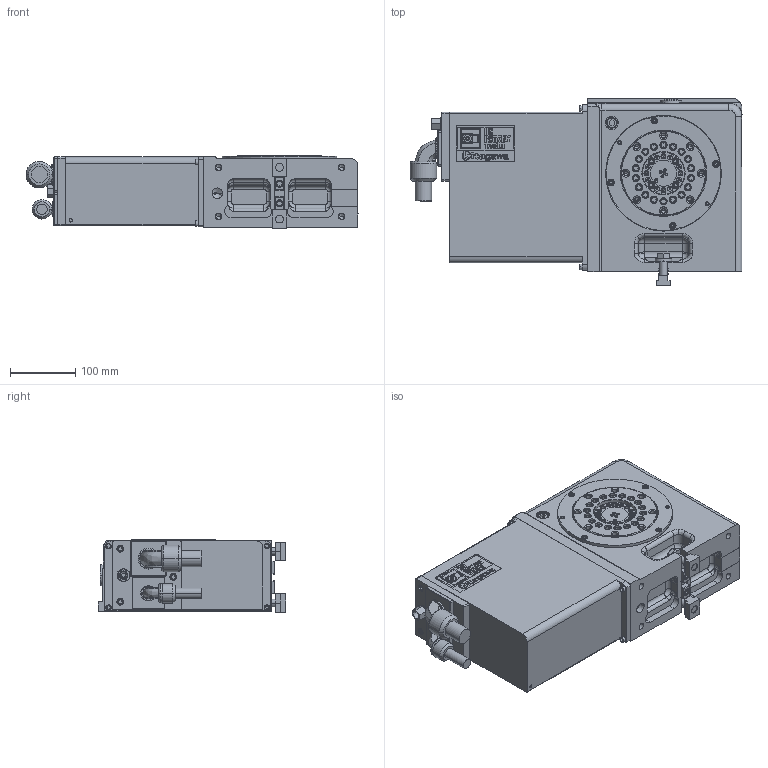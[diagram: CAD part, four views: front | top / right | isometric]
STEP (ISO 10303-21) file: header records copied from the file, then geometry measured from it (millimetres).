
FILE_DESCRIPTION (( 'STEP AP214' ), '1' );
FILE_NAME ('CKR200LF.STEP', '2019-12-02T04:00:24', ( '' ), ( '' ), 'SwSTEP 2.0', 'SolidWorks 2017', '' );
FILE_SCHEMA (( 'AUTOMOTIVE_DESIGN' ));
Length unit declared in the file: millimetre
Products named in the file (21): 僔儕儞僟RJ(61E2751873)CKR200R00; シールリング(61E8300941)CKR200R00; ベース(61E1149144)CKR200L00_ﾃﾞﾌｫﾙﾄ<ﾏｼﾝ加工>; クランプキミタテ(61E473251)CK160D1; Tスロットナット１４１２; CKR200LF; B パーカ　M12×40; ワッシャ １２(61M4266320)VQ100; CKR200LFホンタイ; キタガワシール; ケーブルN29ZS1650; ケーブルN29ZS2554; SMC KQ2E06-02; モータケース(図番無し)CK200LF_ﾃﾞﾌｫﾙﾄ<ﾏｼﾝ加工>; コネクタプレート(図番無し)CK200LF_ﾃﾞﾌｫﾙﾄ<ﾏｼﾝ加工>; ガイドブロック(61M4198752); CKR200L00僋儈僞僥(61E5023130); テーブル(61E8309352)CKR200R00; チェックバルブ AKB01A-01S-×435; オイルゲージ 257; リベットメイバンPAD(61E4844381,61E4844371)CK160
Assembly tree (22 placements, depth 4):
  CKR200LF
    CKR200LFホンタイ
      CKR200L00僋儈僞僥(61E5023130)
        ベース(61E1149144)CKR200L00_ﾃﾞﾌｫﾙﾄ<ﾏｼﾝ加工>
        シールリング(61E8300941)CKR200R00
        僔儕儞僟RJ(61E2751873)CKR200R00
        リベットメイバンPAD(61E4844381,61E4844371)CK160
        オイルゲージ 257
        チェックバルブ AKB01A-01S-×435
        テーブル(61E8309352)CKR200R00
      ガイドブロック(61M4198752)  x2
      コネクタプレート(図番無し)CK200LF_ﾃﾞﾌｫﾙﾄ<ﾏｼﾝ加工>
      モータケース(図番無し)CK200LF_ﾃﾞﾌｫﾙﾄ<ﾏｼﾝ加工>
      SMC KQ2E06-02
      ケーブルN29ZS2554
      ケーブルN29ZS1650
      キタガワシール
    クランプキミタテ(61E473251)CK160D1  x2
      ワッシャ １２(61M4266320)VQ100
      B パーカ　M12×40
      Tスロットナット１４１２
Bounding box: 507.4 x 287 x 111.25 mm (x, y, z)
Volume: 11409273.2 mm3; surface area: 824819.9 mm2
Topology: 21 solids, 21 shells, 3526 faces, 9001 edges, 5814 vertices
Faces by surface type: plane 2387, cylinder 751, cone 300, bspline 39, torus 33, sphere 16
Entity records: 119756 total; most frequent: CARTESIAN_POINT 20485, ORIENTED_EDGE 17502, DIRECTION 17253, EDGE_CURVE 8751, VECTOR 6833, LINE 6833, VERTEX_POINT 5712, AXIS2_PLACEMENT_3D 5210
